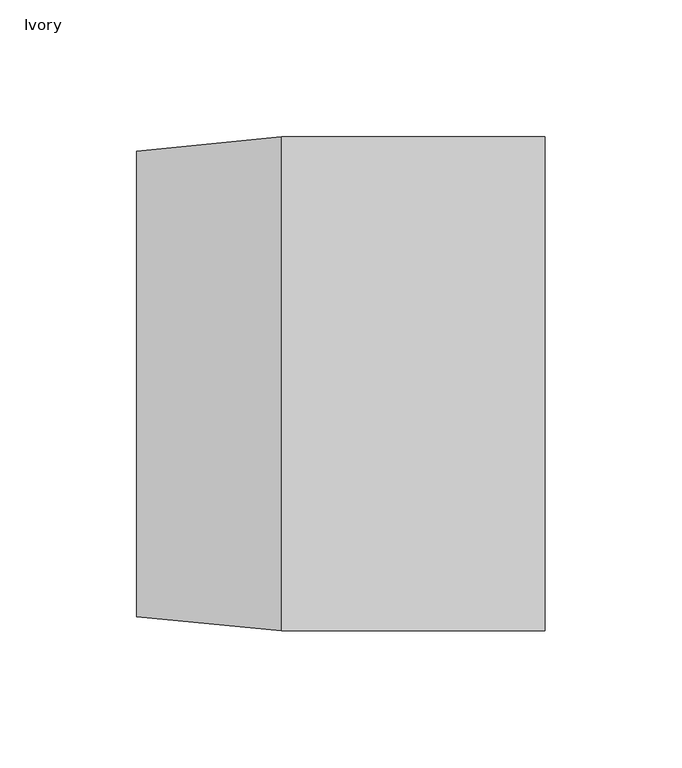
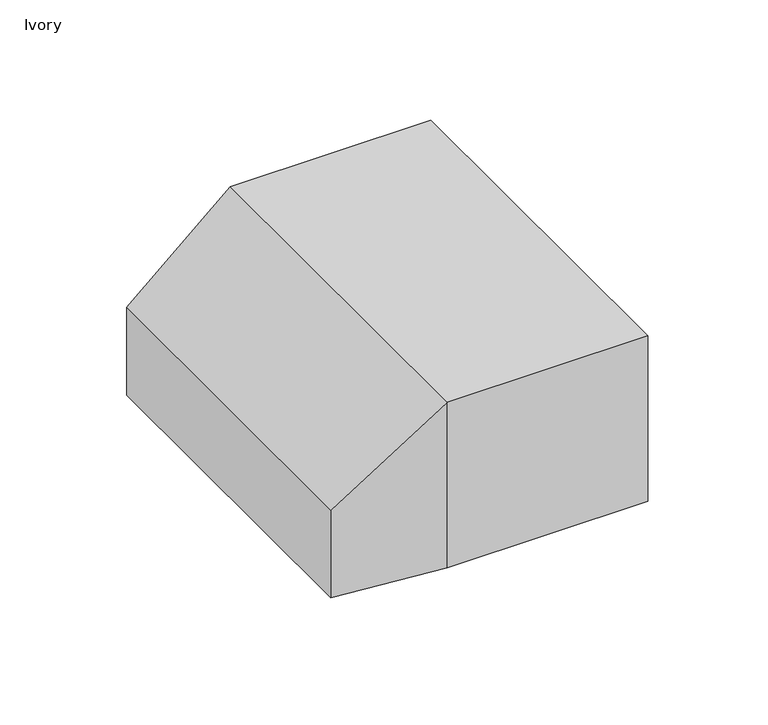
"""IFC4 building model written with IfcOpenShell, lengths in millimetres: proxy geometry, End_Fitting-5500_Series-Wiremold-Entrance : Ivory."""

from ifc_helpers import new_model, si_unit, origin, place, context, project, spatial, faceted_brep, source, transform, mapped, element, save


def ivory_51c7f417(model_context):
    return source(origin(), model_context, "Body", "Brep", [
        faceted_brep([(74.549, -90.17, 84.074), (-21.717, -90.17, 84.074), (-21.717, -90.17, 0.0), (74.549, -90.17, 0.0), (74.549, 90.17, 84.074), (74.549, 90.17, 0.0), (-21.717, 90.17, 0.0), (-21.717, 90.17, 84.074), (-74.549, 84.93125, 44.45), (-74.549, -84.93125, 44.45), (-74.549, 84.93125, 0.0), (-74.549, -84.93125, 0.0)], [[[0, 1, 2, 3]], [[4, 5, 6, 7]], [[1, 0, 4, 7]], [[1, 7, 8, 9]], [[9, 8, 10, 11]], [[5, 3, 2, 11, 10, 6]], [[0, 3, 5, 4]], [[7, 6, 10, 8]], [[2, 1, 9, 11]]]),
    ])


if __name__ == "__main__":
    model = new_model("IFC4")
    model_context = context("Model", 3, world=origin())
    ifc_project = project(units=[si_unit("LENGTHUNIT", "METRE", prefix="MILLI")], contexts=[model_context])
    site = spatial("IfcSite", under=ifc_project)
    building = spatial("IfcBuilding", under=site)
    placement = place(None, origin())
    ivory_shape = ivory_51c7f417(model_context)
    element("IfcBuildingElementProxy", 1, Name="End_Fitting-5500_Series-Wiremold-Entrance : Ivory", ObjectType="End_Fitting-5500_Series-Wiremold-Entrance : Ivory", at=placement, inside=building, context=model_context, shape_type="MappedRepresentation", body=[
        mapped(ivory_shape, transform((0.0, 0.0, 0.0), x_axis=(1.0, 0.0, 0.0), y_axis=(0.0, 1.0, 0.0), z_axis=(0.0, 0.0, 1.0))),
    ])
    save(model, "model.ifc")
